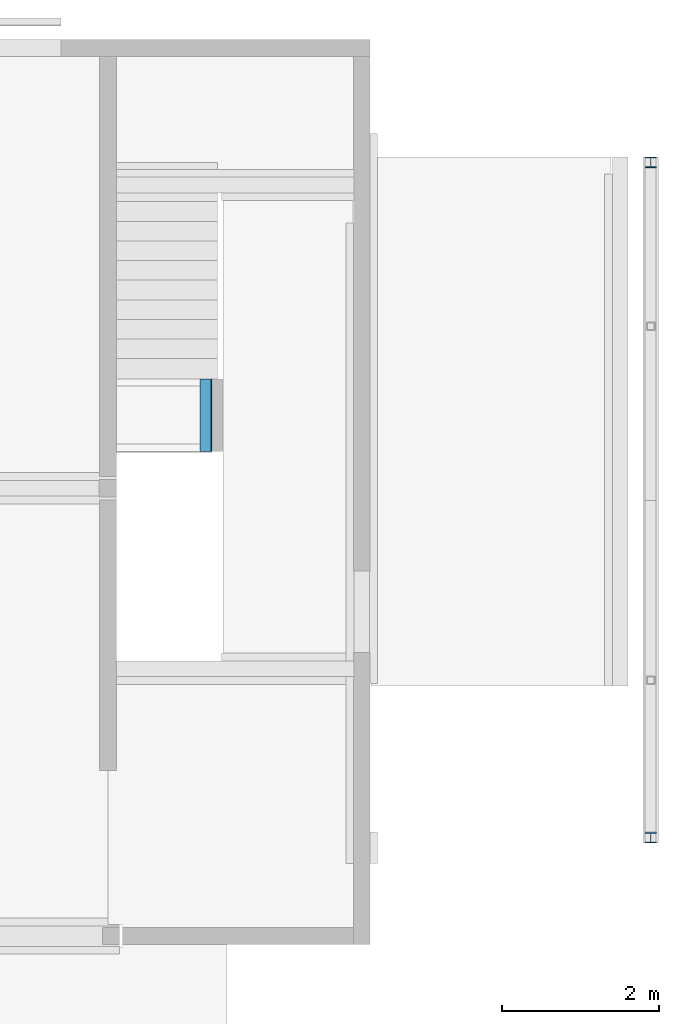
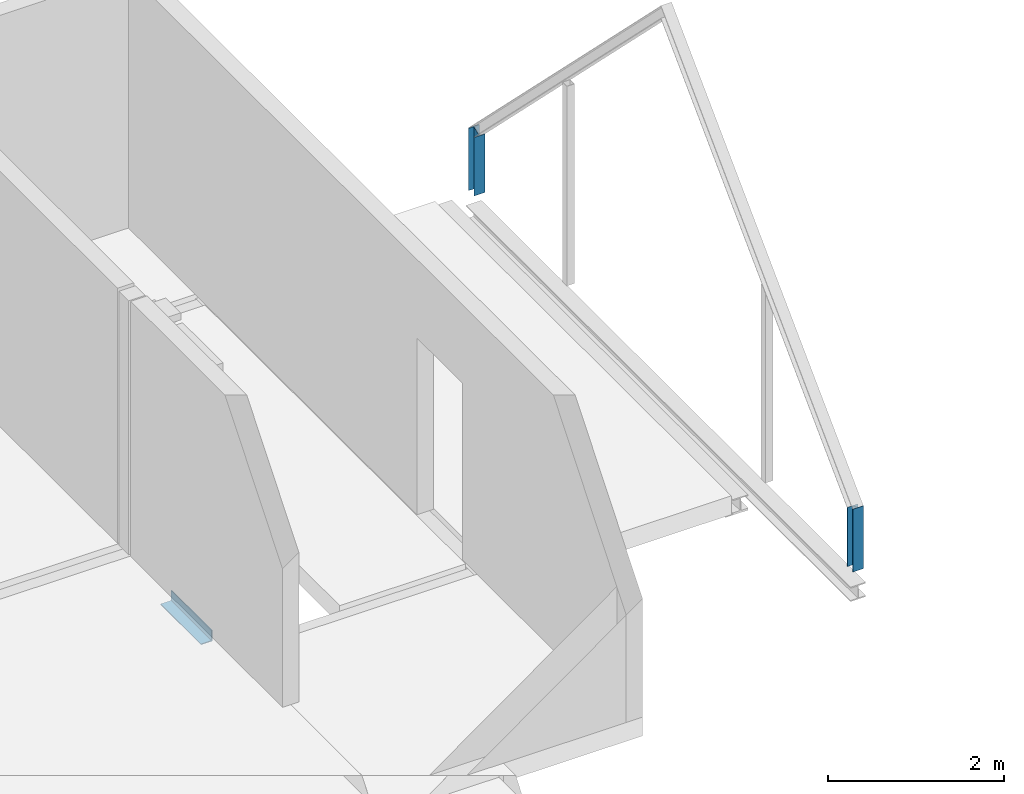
# One storey, part 9 of 14: 3 beams.
"""IFC2X3 building model written with IfcOpenShell, lengths in millimetres."""

from ifc_helpers import new_model, entity, si_unit, converted_unit, derived_unit, direction, frame, frame_2d, origin, place, context, subcontext, project, spatial, polyline, i_section, outline, extrude, clip, halfspace, material, type_object, element, save


model = new_model("IFC2X3")

# Units and contexts
model_context = context("Model", 3, precision=0.01, world=origin(), true_north=direction((6.123031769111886e-17, 1.0)))
body_context = subcontext(model_context, "Body", "Model", "MODEL_VIEW")
ifc_project = project(units=[si_unit("LENGTHUNIT", "METRE", prefix="MILLI"), si_unit("AREAUNIT", "SQUARE_METRE", prefix="MILLI"), si_unit("VOLUMEUNIT", "CUBIC_METRE"), converted_unit("PLANEANGLEUNIT", "DEGREE", entity("IfcPlaneAngleMeasure", 0.017453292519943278), si_unit("PLANEANGLEUNIT", "RADIAN"), dimensions=[0, 0, 0, 0, 0, 0, 0]), si_unit("MASSUNIT", "GRAM", prefix="KILO"), derived_unit("MASSDENSITYUNIT", [(si_unit("MASSUNIT", "GRAM", prefix="KILO"), 1), (si_unit("LENGTHUNIT", "METRE"), -3)]), derived_unit("IONCONCENTRATIONUNIT", [(si_unit("MASSUNIT", "GRAM", prefix="KILO"), 1), (si_unit("LENGTHUNIT", "METRE"), -3)]), derived_unit("MOMENTOFINERTIAUNIT", [(si_unit("LENGTHUNIT", "METRE"), 4)]), si_unit("TIMEUNIT", "SECOND"), si_unit("FREQUENCYUNIT", "HERTZ"), si_unit("THERMODYNAMICTEMPERATUREUNIT", "DEGREE_CELSIUS"), derived_unit("THERMALTRANSMITTANCEUNIT", [(si_unit("MASSUNIT", "GRAM", prefix="KILO"), 1), (si_unit("THERMODYNAMICTEMPERATUREUNIT", "KELVIN"), -1), (si_unit("TIMEUNIT", "SECOND"), -3)]), derived_unit("THERMALCONDUCTANCEUNIT", [(si_unit("MASSUNIT", "GRAM", prefix="KILO"), 1), (si_unit("THERMODYNAMICTEMPERATUREUNIT", "KELVIN"), -1), (si_unit("TIMEUNIT", "SECOND"), -3), (si_unit("LENGTHUNIT", "METRE"), 1)]), derived_unit("VOLUMETRICFLOWRATEUNIT", [(si_unit("LENGTHUNIT", "METRE", prefix="DECI"), 3), (si_unit("TIMEUNIT", "SECOND"), -1)]), derived_unit("MASSFLOWRATEUNIT", [(si_unit("MASSUNIT", "GRAM", prefix="KILO"), 1), (si_unit("TIMEUNIT", "SECOND"), -1)]), derived_unit("ROTATIONALFREQUENCYUNIT", [(si_unit("TIMEUNIT", "SECOND"), -1)]), si_unit("ELECTRICCURRENTUNIT", "AMPERE"), si_unit("ELECTRICVOLTAGEUNIT", "VOLT"), si_unit("POWERUNIT", "WATT"), si_unit("FORCEUNIT", "NEWTON", prefix="KILO"), si_unit("ILLUMINANCEUNIT", "LUX"), si_unit("LUMINOUSFLUXUNIT", "LUMEN"), si_unit("LUMINOUSINTENSITYUNIT", "CANDELA"), si_unit("ENERGYUNIT", "JOULE"), derived_unit("USERDEFINED", [(si_unit("MASSUNIT", "GRAM", prefix="KILO"), -1), (si_unit("LENGTHUNIT", "METRE"), -2), (si_unit("TIMEUNIT", "SECOND"), 3), (si_unit("LUMINOUSFLUXUNIT", "LUMEN"), 1)]), derived_unit("USERDEFINED", [(si_unit("MASSUNIT", "GRAM", prefix="KILO"), 1), (si_unit("TIMEUNIT", "SECOND"), -3), (si_unit("LENGTHUNIT", "METRE"), 3), (si_unit("ELECTRICCURRENTUNIT", "AMPERE"), -2)]), derived_unit("SOUNDPOWERUNIT", [(si_unit("MASSUNIT", "GRAM", prefix="KILO"), 1), (si_unit("TIMEUNIT", "SECOND"), -3), (si_unit("LENGTHUNIT", "METRE"), 2)]), derived_unit("SOUNDPRESSUREUNIT", [(si_unit("MASSUNIT", "GRAM", prefix="KILO"), 1), (si_unit("LENGTHUNIT", "METRE"), -1), (si_unit("TIMEUNIT", "SECOND"), -2)]), derived_unit("LINEARVELOCITYUNIT", [(si_unit("LENGTHUNIT", "METRE"), 1), (si_unit("TIMEUNIT", "SECOND"), -1)]), si_unit("PRESSUREUNIT", "PASCAL"), derived_unit("USERDEFINED", [(si_unit("MASSUNIT", "GRAM", prefix="KILO"), 1), (si_unit("LENGTHUNIT", "METRE"), -2), (si_unit("TIMEUNIT", "SECOND"), -2)]), derived_unit("LINEARFORCEUNIT", [(si_unit("MASSUNIT", "GRAM", prefix="KILO"), 1), (si_unit("TIMEUNIT", "SECOND"), -2)]), derived_unit("PLANARFORCEUNIT", [(si_unit("MASSUNIT", "GRAM", prefix="KILO"), 1), (si_unit("LENGTHUNIT", "METRE"), -1), (si_unit("TIMEUNIT", "SECOND"), -2)]), derived_unit("SPECIFICHEATCAPACITYUNIT", [(si_unit("THERMODYNAMICTEMPERATUREUNIT", "KELVIN"), -1), (si_unit("LENGTHUNIT", "METRE"), 2), (si_unit("TIMEUNIT", "SECOND"), -2)]), derived_unit("HEATFLUXDENSITYUNIT", [(si_unit("MASSUNIT", "GRAM", prefix="KILO"), 1), (si_unit("TIMEUNIT", "SECOND"), -3)]), derived_unit("HEATINGVALUEUNIT", [(si_unit("LENGTHUNIT", "METRE"), 2), (si_unit("TIMEUNIT", "SECOND"), -2)]), derived_unit("VAPORPERMEABILITYUNIT", [(si_unit("LENGTHUNIT", "METRE"), -1), (si_unit("TIMEUNIT", "SECOND"), 1)]), derived_unit("DYNAMICVISCOSITYUNIT", [(si_unit("MASSUNIT", "GRAM", prefix="KILO"), 1), (si_unit("TIMEUNIT", "SECOND"), -1), (si_unit("LENGTHUNIT", "METRE"), -1)]), derived_unit("THERMALEXPANSIONCOEFFICIENTUNIT", [(si_unit("THERMODYNAMICTEMPERATUREUNIT", "KELVIN"), -1)]), derived_unit("MODULUSOFELASTICITYUNIT", [(si_unit("MASSUNIT", "GRAM", prefix="KILO"), 1), (si_unit("LENGTHUNIT", "METRE"), -1), (si_unit("TIMEUNIT", "SECOND"), -2)]), derived_unit("ISOTHERMALMOISTURECAPACITYUNIT", [(si_unit("MASSUNIT", "GRAM", prefix="KILO"), -1), (si_unit("LENGTHUNIT", "METRE"), 3)]), derived_unit("MOISTUREDIFFUSIVITYUNIT", [(si_unit("TIMEUNIT", "SECOND"), -1), (si_unit("LENGTHUNIT", "METRE"), 2)]), derived_unit("MASSPERLENGTHUNIT", [(si_unit("MASSUNIT", "GRAM", prefix="KILO"), 1), (si_unit("LENGTHUNIT", "METRE"), -1)]), derived_unit("THERMALRESISTANCEUNIT", [(si_unit("MASSUNIT", "GRAM", prefix="KILO"), -1), (si_unit("TIMEUNIT", "SECOND"), 3), (si_unit("THERMODYNAMICTEMPERATUREUNIT", "KELVIN"), 1)]), derived_unit("ACCELERATIONUNIT", [(si_unit("LENGTHUNIT", "METRE"), 1), (si_unit("TIMEUNIT", "SECOND"), -2)]), derived_unit("ANGULARVELOCITYUNIT", [(si_unit("TIMEUNIT", "SECOND"), -1), (si_unit("PLANEANGLEUNIT", "RADIAN"), 1)]), derived_unit("LINEARSTIFFNESSUNIT", [(si_unit("MASSUNIT", "GRAM", prefix="KILO"), 1), (si_unit("TIMEUNIT", "SECOND"), -2)]), derived_unit("WARPINGCONSTANTUNIT", [(si_unit("LENGTHUNIT", "METRE"), 6)]), derived_unit("LINEARMOMENTUNIT", [(si_unit("MASSUNIT", "GRAM", prefix="KILO"), 1), (si_unit("LENGTHUNIT", "METRE"), 1), (si_unit("TIMEUNIT", "SECOND"), -2)]), derived_unit("TORQUEUNIT", [(si_unit("MASSUNIT", "GRAM", prefix="KILO"), 1), (si_unit("LENGTHUNIT", "METRE"), 2), (si_unit("TIMEUNIT", "SECOND"), -2)])], contexts=[model_context])

# Site, building, storey
site_placement = place(None, origin())
site = spatial("IfcSite", under=ifc_project, at=site_placement, Name="Default", CompositionType="ELEMENT")
building_placement = place(site_placement, origin())
building = spatial("IfcBuilding", under=site, at=building_placement, CompositionType="ELEMENT")
storey_placement = place(building_placement, frame((0.0, 0.0, 3730.0)))
storey = spatial("IfcBuildingStorey", under=building, at=storey_placement, Name="V1 1e verd. (bk ruwe vloer)", CompositionType="ELEMENT", Elevation=3729.9999999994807)

# Beams
ifc_material = material(Name="Metal - Steel - S235 JRG2 (standaard)")
beam_type_1 = type_object("IfcBeamType", Name="btl_staal - Hoeklijn 2.0:L150x150x12", PredefinedType="NOTDEFINED")
beam_1_placement = place(storey_placement, frame((28825.159409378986, 38114.57320506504, -1900.2999999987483), z_axis=(0.0, 0.0, 1.0), x_axis=(0.0, 1.0, 0.0)))
element("IfcBeam", 1, at=beam_1_placement, inside=storey, type_object=beam_type_1, material=ifc_material, Name="btl_staal - Hoeklijn 2.0:L150x150x12", ObjectType="btl_staal - Hoeklijn 2.0:L150x150x12", context=body_context, shape_type="SweptSolid", body=[
    extrude(outline(polyline([(-96.0, -54.0), (54.0, -54.0), (54.0, 96.0), (42.0, 96.0), (42.0, -42.0), (-96.0, -42.0), (-96.0, -54.0)])), frame((0.0, 30.640000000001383, -96.0), z_axis=(1.0, 0.0, 0.0), x_axis=(0.0, 0.0, -1.0)), (0.0, 0.0, 1.0), 919.9999999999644),
])
beam_type_2 = type_object("IfcBeamType", Name="btl_staal - HE(a-b-m):HEA140", PredefinedType="NOTDEFINED")
beam_2_placement = place(storey_placement, frame((34439.97719495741, 33125.24508006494, 843.9260697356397), z_axis=(1.0, 0.0, 0.0), x_axis=(0.0, 0.0, -1.0)))
element("IfcBeam", 2, at=beam_2_placement, inside=storey, type_object=beam_type_2, material=ifc_material, Name="btl_staal - HE(a-b-m):HEA140", ObjectType="btl_staal - HE(a-b-m):HEA140", context=body_context, shape_type="SweptSolid", body=[
    clip(extrude(i_section(OverallWidth=139.9999999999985, OverallDepth=133.00000000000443, WebThickness=5.4999999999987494, FlangeThickness=8.5000000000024, at=frame_2d((-2.1600499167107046e-12, -6.494360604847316e-12), x_axis=(1.0, 0.0))), frame((-27.625249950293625, 66.5000000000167, 0.0), z_axis=(1.0, 0.0, 0.0), x_axis=(0.0, 0.0, -1.0)), (0.0, 0.0, 1.0), 871.5513196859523), halfspace(frame((27.625249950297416, 133.0, 0.0), z_axis=(-0.9234860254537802, 0.38363206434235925, 0.0), x_axis=(0.0, 0.0, 1.0)), False)),
])
beam_3_placement = place(storey_placement, frame((34439.97719495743, 41861.90133006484, 839.7348073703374), z_axis=(1.0, 0.0, 0.0), x_axis=(0.0, 0.0, -1.0)))
element("IfcBeam", 3, at=beam_3_placement, inside=storey, type_object=beam_type_2, material=ifc_material, Name="btl_staal - HE(a-b-m):HEA140", ObjectType="btl_staal - HE(a-b-m):HEA140", context=body_context, shape_type="SweptSolid", body=[
    clip(extrude(i_section(OverallWidth=139.9999999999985, OverallDepth=132.99999999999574, WebThickness=5.4999999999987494, FlangeThickness=8.50000000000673, at=frame_2d((2.1600499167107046e-12, 4.32720526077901e-12), x_axis=(1.0, 0.0))), frame((-27.67568130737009, -66.49999999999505, 0.0), z_axis=(1.0, 0.0, 0.0), x_axis=(0.0, 0.0, -1.0)), (0.0, 0.0, 1.0), 867.4104886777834), halfspace(frame((-27.675681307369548, 0.0, 0.0), z_axis=(-0.9232377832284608, -0.38422909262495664, 0.0), x_axis=(0.0, 0.0, 1.0)), False)),
])

save(model, "model.ifc")
